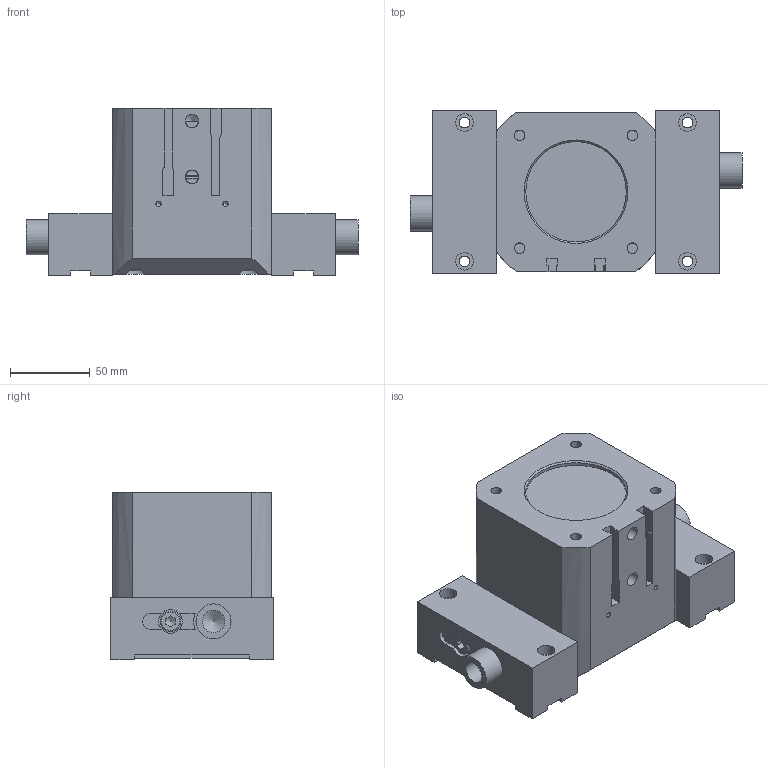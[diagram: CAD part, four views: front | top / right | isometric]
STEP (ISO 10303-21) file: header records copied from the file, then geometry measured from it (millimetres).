
FILE_DESCRIPTION((''),'2;1');
FILE_NAME('T:\CAD\Standard\Daten\3D-Datenbank\GP\4 - 3D-CAD-Daten GP 050-125\GP125\step-Daten\G-GP125-l1-GÖ+UB closed.stp','2013-11-07T13:30:16',('Dirk'),(''),'Autodesk Inventor 2011','Autodesk Inventor 2011','');
FILE_SCHEMA(('AUTOMOTIVE_DESIGN { 1 0 10303 214 1 1 1 1 }'));
Length unit declared in the file: millimetre
Products named in the file (1): Bauteil70
Bounding box: 208.2 x 102 x 105 mm (x, y, z)
Volume: 1130229.5 mm3; surface area: 183177.6 mm2
Topology: 1 solids, 22 shells, 424 faces, 1078 edges, 699 vertices
Faces by surface type: plane 245, cylinder 118, cone 36, torus 24, bspline 1
Full cylindrical faces by diameter (mm): 3.242 x2, 6.647 x10, 8 x6, 8.566 x2, 9 x6, 10.106 x1, 11 x4, 12 x1, 13 x7, 14 x2, 15 x8, 22 x4, 24 x1, 25 x7, 28 x1, 31.4 x2, 37 x1, 60 x2, 63 x1, 70.2 x1, 77.1 x2, 80 x5
Entity records: 13235 total; most frequent: CARTESIAN_POINT 3340, DIRECTION 1959, ORIENTED_EDGE 1754, EDGE_CURVE 877, AXIS2_PLACEMENT_3D 744, VERTEX_POINT 630, EDGE_LOOP 627, VECTOR 471
